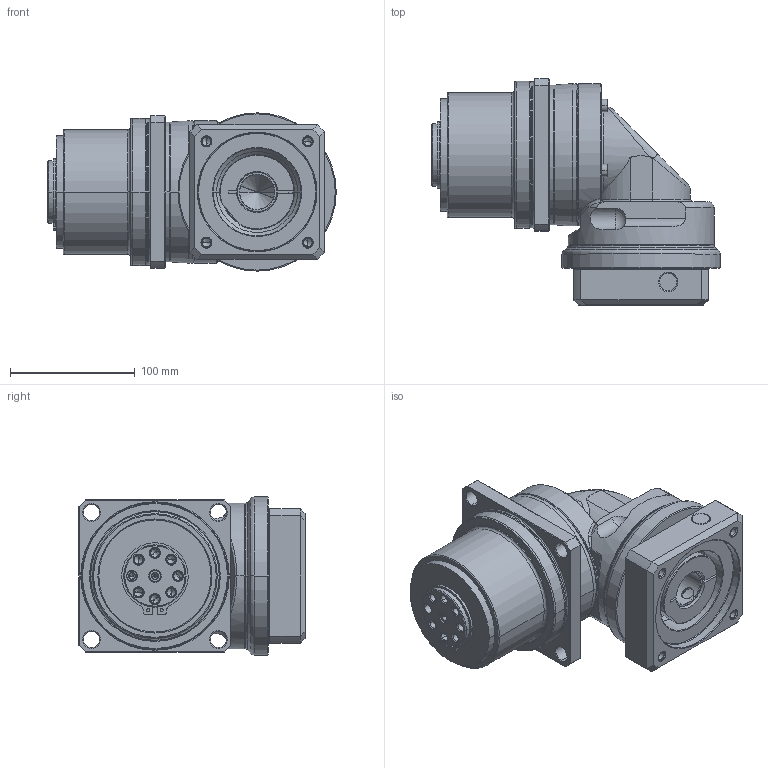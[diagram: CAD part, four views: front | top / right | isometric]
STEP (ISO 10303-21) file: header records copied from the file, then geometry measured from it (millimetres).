
FILE_DESCRIPTION((''),'2;1');
FILE_NAME('PLR120_1ST_28-P0411600101_ASM','2016-06-21T',('d00435'),(''),'PRO/ENGINEER BY PARAMETRIC TECHNOLOGY CORPORATION, 2008410','PRO/ENGINEER BY PARAMETRIC TECHNOLOGY CORPORATION, 2008410','');
FILE_SCHEMA(('CONFIG_CONTROL_DESIGN'));
Length unit declared in the file: millimetre
Products named in the file (10): P0272400001; P1353400001; P0366400001; 22802000029; P1017410001; P1350400201; P0411600101; P0503600008; P0713400201; PLR120_1ST_28-P0411600101_ASM
Assembly tree (9 placements, depth 2):
  PLR120_1ST_28-P0411600101_ASM
    P0272400001
    P1353400001
    P0366400001
    22802000029
    P1017410001
    P1350400201
    P0411600101
    P0503600008
    P0713400201
Bounding box: 231.5 x 181.5 x 127 mm (x, y, z)
Volume: 2049986.2 mm3; surface area: 322040.5 mm2
Topology: 10 solids, 27 shells, 583 faces, 1376 edges, 833 vertices
Faces by surface type: cylinder 203, cone 154, plane 120, torus 74, bspline 30, sphere 2
Entity records: 19826 total; most frequent: CARTESIAN_POINT 6232, DIRECTION 3006, ORIENTED_EDGE 2616, EDGE_CURVE 1342, AXIS2_PLACEMENT_3D 1271, VERTEX_POINT 833, CIRCLE 691, EDGE_LOOP 669
